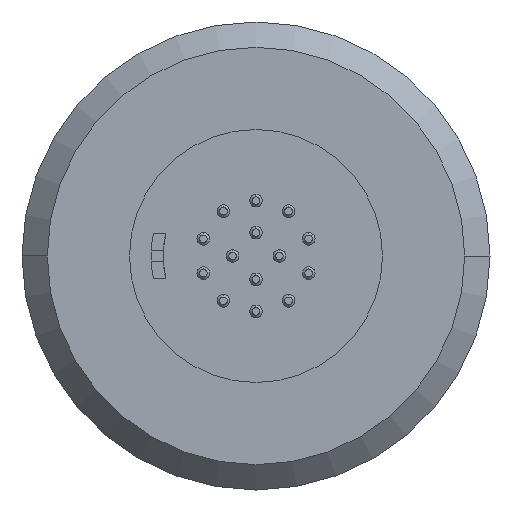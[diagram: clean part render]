
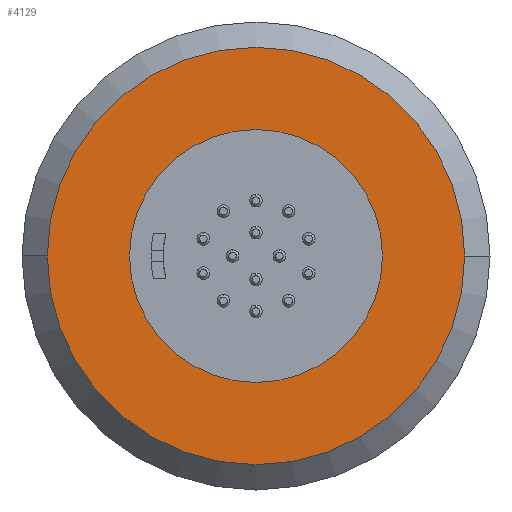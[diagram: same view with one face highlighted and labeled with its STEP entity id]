
A CAD part, left-side view. The second image highlights one B-rep face of the part: STEP entity #4129.
In plain terms, the highlighted planar face has unit normal (-1, 0, 0).
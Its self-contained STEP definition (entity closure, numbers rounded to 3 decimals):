
#510=CARTESIAN_POINT('',(-10.5,0.,0.));
#511=DIRECTION('',(1.,0.,0.));
#512=DIRECTION('',(0.,1.,0.));
#513=AXIS2_PLACEMENT_3D('',#510,#511,#512);
#515=CARTESIAN_POINT('',(-10.5,0.,0.));
#516=DIRECTION('',(1.,0.,0.));
#517=DIRECTION('',(0.,0.,1.));
#518=AXIS2_PLACEMENT_3D('',#515,#516,#517);
#520=CARTESIAN_POINT('',(-10.5,0.,0.));
#521=DIRECTION('',(1.,0.,0.));
#522=DIRECTION('',(0.,-1.,0.));
#523=AXIS2_PLACEMENT_3D('',#520,#521,#522);
#525=CARTESIAN_POINT('',(-10.5,0.,0.));
#526=DIRECTION('',(1.,0.,0.));
#527=DIRECTION('',(0.,0.,-1.));
#528=AXIS2_PLACEMENT_3D('',#525,#526,#527);
#530=CARTESIAN_POINT('',(-10.5,0.,0.));
#531=DIRECTION('',(-1.,0.,0.));
#532=DIRECTION('',(0.,-1.,0.));
#533=AXIS2_PLACEMENT_3D('',#530,#531,#532);
#535=CARTESIAN_POINT('',(-10.5,0.,0.));
#536=DIRECTION('',(-1.,0.,0.));
#537=DIRECTION('',(0.,1.,0.));
#538=AXIS2_PLACEMENT_3D('',#535,#536,#537);
#3002=CARTESIAN_POINT('',(-10.5,-8.25,0.));
#3003=VERTEX_POINT('',#3002);
#3004=CARTESIAN_POINT('',(-10.5,8.25,0.));
#3005=CARTESIAN_POINT('',(-10.5,0.,8.25));
#3006=VERTEX_POINT('',#3004);
#3007=VERTEX_POINT('',#3005);
#3010=CARTESIAN_POINT('',(-10.5,0.,-8.25));
#3011=VERTEX_POINT('',#3010);
#3012=CARTESIAN_POINT('',(-10.5,-5.,0.));
#3013=CARTESIAN_POINT('',(-10.5,5.,0.));
#3014=VERTEX_POINT('',#3012);
#3015=VERTEX_POINT('',#3013);
#4112=CARTESIAN_POINT('',(-10.5,0.,0.));
#4113=DIRECTION('',(-1.,0.,0.));
#4114=DIRECTION('',(0.,-1.,0.));
#4115=AXIS2_PLACEMENT_3D('',#4112,#4113,#4114);
#4116=PLANE('',#4115);
#4117=ORIENTED_EDGE('',*,*,#4053,.T.);
#4118=ORIENTED_EDGE('',*,*,#4051,.T.);
#4119=ORIENTED_EDGE('',*,*,#4079,.T.);
#4120=ORIENTED_EDGE('',*,*,#4077,.T.);
#4121=EDGE_LOOP('',(#4117,#4118,#4119,#4120));
#4122=FACE_OUTER_BOUND('',#4121,.F.);
#4124=ORIENTED_EDGE('',*,*,#4123,.T.);
#4126=ORIENTED_EDGE('',*,*,#4125,.T.);
#4127=EDGE_LOOP('',(#4124,#4126));
#4128=FACE_BOUND('',#4127,.F.);
#514=CIRCLE('',#513,8.25);
#519=CIRCLE('',#518,8.25);
#524=CIRCLE('',#523,8.25);
#529=CIRCLE('',#528,8.25);
#534=CIRCLE('',#533,5.);
#539=CIRCLE('',#538,5.);
#4051=EDGE_CURVE('',#3007,#3003,#519,.T.);
#4053=EDGE_CURVE('',#3006,#3007,#514,.T.);
#4077=EDGE_CURVE('',#3011,#3006,#529,.T.);
#4079=EDGE_CURVE('',#3003,#3011,#524,.T.);
#4123=EDGE_CURVE('',#3014,#3015,#534,.T.);
#4125=EDGE_CURVE('',#3015,#3014,#539,.T.);
#4129=ADVANCED_FACE('',(#4122,#4128),#4116,.T.);
